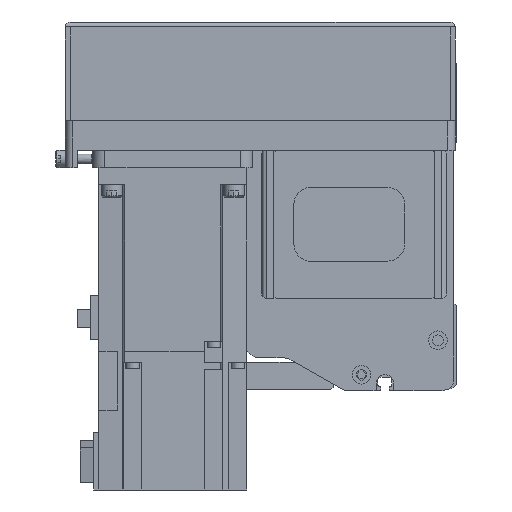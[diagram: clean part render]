
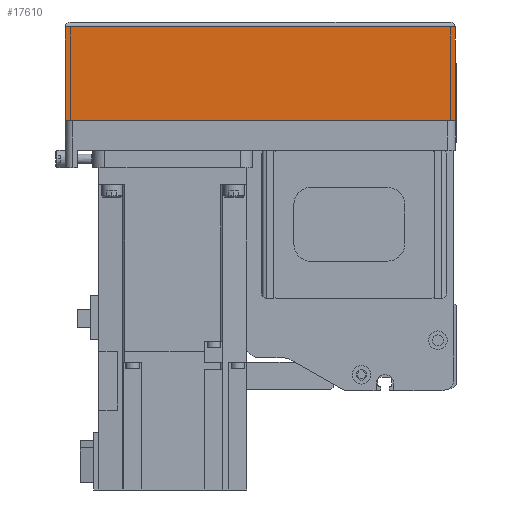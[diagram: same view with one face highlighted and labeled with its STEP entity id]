
A CAD part, left-side view. The second image highlights one B-rep face of the part: STEP entity #17610.
In plain terms, the highlighted planar face has unit normal (-1, 0, 0) as drawn and (0, 1, 0) by its records, which use the part's own axes.
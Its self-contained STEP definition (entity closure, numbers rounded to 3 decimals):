
#2742=ORIENTED_EDGE('',*,*,#7067,.F.);
#2743=ORIENTED_EDGE('',*,*,#7136,.F.);
#2744=ORIENTED_EDGE('',*,*,#7084,.T.);
#2745=ORIENTED_EDGE('',*,*,#7059,.T.);
#7059=EDGE_CURVE('',#9408,#9407,#11205,.T.);
#7067=EDGE_CURVE('',#9415,#9407,#11213,.T.);
#7084=EDGE_CURVE('',#9425,#9408,#11226,.T.);
#7136=EDGE_CURVE('',#9425,#9415,#11255,.T.);
#9407=VERTEX_POINT('',#27030);
#9408=VERTEX_POINT('',#27032);
#9415=VERTEX_POINT('',#27049);
#9425=VERTEX_POINT('',#27080);
#11205=LINE('',#27031,#12835);
#11213=LINE('',#27048,#12843);
#11226=LINE('',#27079,#12856);
#11255=LINE('',#27174,#12885);
#12835=VECTOR('',#21633,1000.);
#12843=VECTOR('',#21645,1000.);
#12856=VECTOR('',#21674,1000.);
#12885=VECTOR('',#21791,1000.);
#14342=EDGE_LOOP('',(#2742,#2743,#2744,#2745));
#15692=FACE_BOUND('',#14342,.T.);
#16871=PLANE('',#18891);
#17610=ADVANCED_FACE('',(#15692),#16871,.T.);
#18891=AXIS2_PLACEMENT_3D('',#27173,#21789,#21790);
#21633=DIRECTION('',(1.,0.,0.));
#21645=DIRECTION('',(0.,0.,1.));
#21674=DIRECTION('',(0.,0.,1.));
#21789=DIRECTION('',(0.,1.,0.));
#21790=DIRECTION('',(0.,0.,1.));
#21791=DIRECTION('',(1.,0.,0.));
#27030=CARTESIAN_POINT('',(0.,39.,-12.1));
#27031=CARTESIAN_POINT('',(-158.,39.,-12.1));
#27032=CARTESIAN_POINT('',(-158.,39.,-12.1));
#27048=CARTESIAN_POINT('',(0.,39.,-50.));
#27049=CARTESIAN_POINT('',(0.,39.,-50.));
#27079=CARTESIAN_POINT('',(-158.,39.,-50.));
#27080=CARTESIAN_POINT('',(-158.,39.,-50.));
#27173=CARTESIAN_POINT('',(-158.,39.,-50.));
#27174=CARTESIAN_POINT('',(-158.,39.,-50.));
